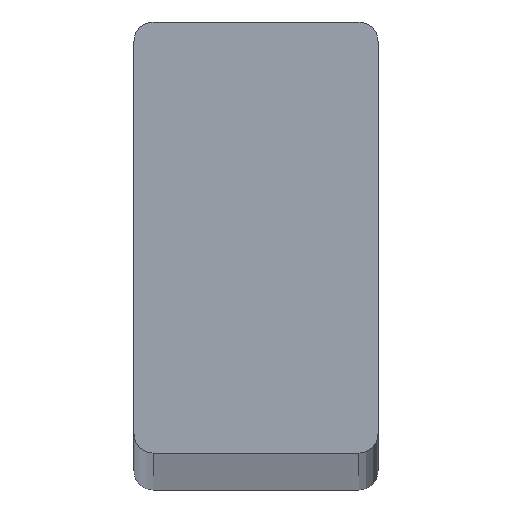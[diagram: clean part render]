
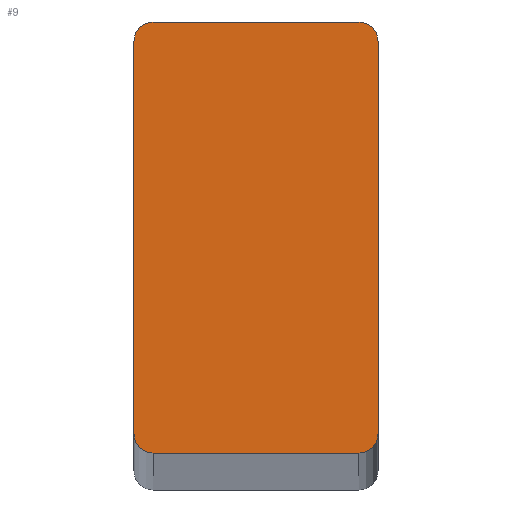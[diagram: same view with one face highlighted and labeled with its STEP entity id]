
A CAD part, top view. The second image highlights one B-rep face of the part: STEP entity #9.
In plain terms, the highlighted planar face has unit normal (0, 0, 1).
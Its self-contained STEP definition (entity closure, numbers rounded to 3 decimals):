
#6 = VERTEX_POINT ( 'NONE', #130 ) ;
#8 = DIRECTION ( 'NONE',  ( 0., 0., 1. ) ) ;
#9 = ADVANCED_FACE ( 'NONE', ( #260 ), #103, .T. ) ;
#11 = VECTOR ( 'NONE', #305, 1000. ) ;
#12 = EDGE_CURVE ( 'NONE', #67, #79, #203, .T. ) ;
#15 = ORIENTED_EDGE ( 'NONE', *, *, #335, .T. ) ;
#19 = CARTESIAN_POINT ( 'NONE',  ( -6.35, 11.2, 550. ) ) ;
#21 = CIRCLE ( 'NONE', #151, 1. ) ;
#24 = DIRECTION ( 'NONE',  ( 0., 0., 1. ) ) ;
#30 = DIRECTION ( 'NONE',  ( 0., 0., 1. ) ) ;
#52 = EDGE_LOOP ( 'NONE', ( #170, #94, #222, #345, #15, #346, #240, #167 ) ) ;
#56 = CARTESIAN_POINT ( 'NONE',  ( 6.35, -10.2, 550. ) ) ;
#58 = DIRECTION ( 'NONE',  ( 0., 1., 0. ) ) ;
#67 = VERTEX_POINT ( 'NONE', #115 ) ;
#71 = AXIS2_PLACEMENT_3D ( 'NONE', #239, #24, #206 ) ;
#79 = VERTEX_POINT ( 'NONE', #86 ) ;
#82 = EDGE_CURVE ( 'NONE', #248, #202, #21, .T. ) ;
#86 = CARTESIAN_POINT ( 'NONE',  ( -6.35, 10.2, 550. ) ) ;
#91 = AXIS2_PLACEMENT_3D ( 'NONE', #104, #299, #187 ) ;
#94 = ORIENTED_EDGE ( 'NONE', *, *, #82, .T. ) ;
#103 = PLANE ( 'NONE',  #91 ) ;
#104 = CARTESIAN_POINT ( 'NONE',  ( -6.35, -11.2, 550. ) ) ;
#115 = CARTESIAN_POINT ( 'NONE',  ( -5.35, 11.2, 550. ) ) ;
#119 = AXIS2_PLACEMENT_3D ( 'NONE', #147, #249, #157 ) ;
#130 = CARTESIAN_POINT ( 'NONE',  ( 5.35, 11.2, 550. ) ) ;
#140 = VECTOR ( 'NONE', #233, 1000. ) ;
#147 = CARTESIAN_POINT ( 'NONE',  ( 5.35, -10.2, 550. ) ) ;
#151 = AXIS2_PLACEMENT_3D ( 'NONE', #216, #30, #190 ) ;
#154 = CIRCLE ( 'NONE', #119, 1. ) ;
#157 = DIRECTION ( 'NONE',  ( 1., 0., 0. ) ) ;
#161 = AXIS2_PLACEMENT_3D ( 'NONE', #193, #8, #251 ) ;
#163 = CARTESIAN_POINT ( 'NONE',  ( 6.35, 11.2, 550. ) ) ;
#167 = ORIENTED_EDGE ( 'NONE', *, *, #12, .T. ) ;
#170 = ORIENTED_EDGE ( 'NONE', *, *, #353, .T. ) ;
#171 = VERTEX_POINT ( 'NONE', #56 ) ;
#173 = LINE ( 'NONE', #19, #285 ) ;
#187 = DIRECTION ( 'NONE',  ( 1., 0., 0. ) ) ;
#190 = DIRECTION ( 'NONE',  ( 1., 0., 0. ) ) ;
#193 = CARTESIAN_POINT ( 'NONE',  ( 5.35, 10.2, 550. ) ) ;
#200 = CARTESIAN_POINT ( 'NONE',  ( -6.35, -11.2, 550. ) ) ;
#202 = VERTEX_POINT ( 'NONE', #319 ) ;
#203 = CIRCLE ( 'NONE', #71, 1. ) ;
#206 = DIRECTION ( 'NONE',  ( 1., 0., 0. ) ) ;
#216 = CARTESIAN_POINT ( 'NONE',  ( -5.35, -10.2, 550. ) ) ;
#218 = CARTESIAN_POINT ( 'NONE',  ( 6.35, 10.2, 550. ) ) ;
#222 = ORIENTED_EDGE ( 'NONE', *, *, #374, .T. ) ;
#223 = LINE ( 'NONE', #258, #140 ) ;
#233 = DIRECTION ( 'NONE',  ( -1., 0., 0. ) ) ;
#239 = CARTESIAN_POINT ( 'NONE',  ( -5.35, 10.2, 550. ) ) ;
#240 = ORIENTED_EDGE ( 'NONE', *, *, #349, .T. ) ;
#244 = CARTESIAN_POINT ( 'NONE',  ( -6.35, -10.2, 550. ) ) ;
#248 = VERTEX_POINT ( 'NONE', #244 ) ;
#249 = DIRECTION ( 'NONE',  ( 0., 0., 1. ) ) ;
#251 = DIRECTION ( 'NONE',  ( 1., 0., 0. ) ) ;
#258 = CARTESIAN_POINT ( 'NONE',  ( -6.35, 11.2, 550. ) ) ;
#260 = FACE_OUTER_BOUND ( 'NONE', #52, .T. ) ;
#274 = EDGE_CURVE ( 'NONE', #281, #6, #291, .T. ) ;
#281 = VERTEX_POINT ( 'NONE', #218 ) ;
#285 = VECTOR ( 'NONE', #362, 1000. ) ;
#291 = CIRCLE ( 'NONE', #161, 1. ) ;
#294 = VERTEX_POINT ( 'NONE', #295 ) ;
#295 = CARTESIAN_POINT ( 'NONE',  ( 5.35, -11.2, 550. ) ) ;
#298 = LINE ( 'NONE', #200, #11 ) ;
#299 = DIRECTION ( 'NONE',  ( 0., 0., 1. ) ) ;
#302 = LINE ( 'NONE', #163, #312 ) ;
#305 = DIRECTION ( 'NONE',  ( 1., 0., 0. ) ) ;
#312 = VECTOR ( 'NONE', #58, 1000. ) ;
#317 = EDGE_CURVE ( 'NONE', #294, #171, #154, .T. ) ;
#319 = CARTESIAN_POINT ( 'NONE',  ( -5.35, -11.2, 550. ) ) ;
#335 = EDGE_CURVE ( 'NONE', #171, #281, #302, .T. ) ;
#345 = ORIENTED_EDGE ( 'NONE', *, *, #317, .T. ) ;
#346 = ORIENTED_EDGE ( 'NONE', *, *, #274, .T. ) ;
#349 = EDGE_CURVE ( 'NONE', #6, #67, #223, .T. ) ;
#353 = EDGE_CURVE ( 'NONE', #79, #248, #173, .T. ) ;
#362 = DIRECTION ( 'NONE',  ( 0., -1., 0. ) ) ;
#374 = EDGE_CURVE ( 'NONE', #202, #294, #298, .T. ) ;
